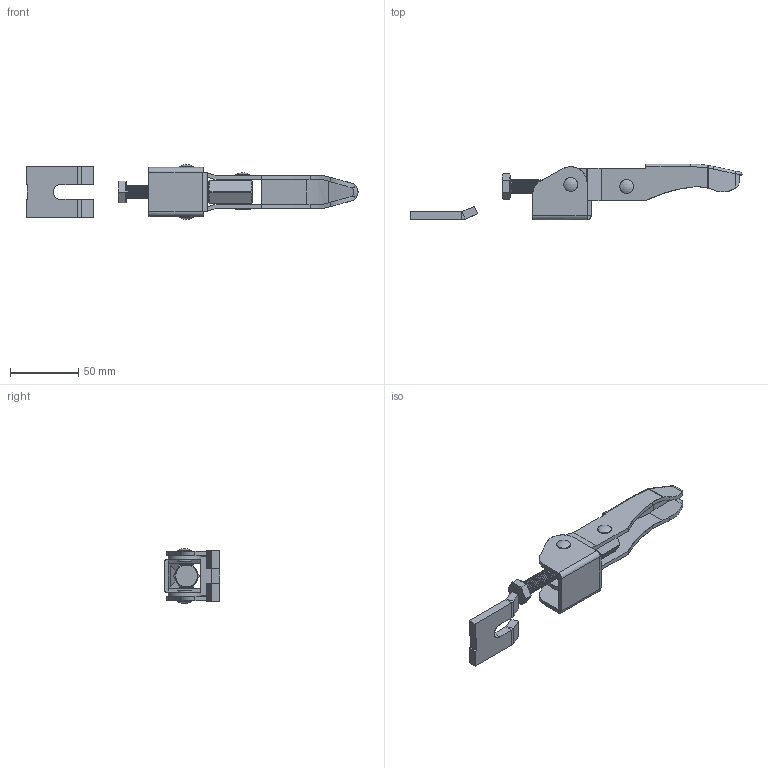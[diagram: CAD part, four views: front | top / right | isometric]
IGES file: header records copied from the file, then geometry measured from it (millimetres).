
Start section: SolidWorks IGES file using analytic representation for surfaces
Global section: file name: \\BARTOP_SV6\share\SOLIDWORKS\工具事業部\坂入用\Toggle clamp\ISK-FA1600\ISK-FA1600.IGS; native system: SolidWorks 2015; preprocessor: SolidWorks 2015; author: SOLID02; date: 150811.203957; units: millimetre
Bounding box: 243.7 x 41 x 40.2 mm (x, y, z)
Surface area: 38065 mm2 (no closed solid volume)
Topology: 0 solids, 0 shells, 539 faces, 5026 edges, 5025 vertices
Faces by surface type: revolution 410, bspline 129
